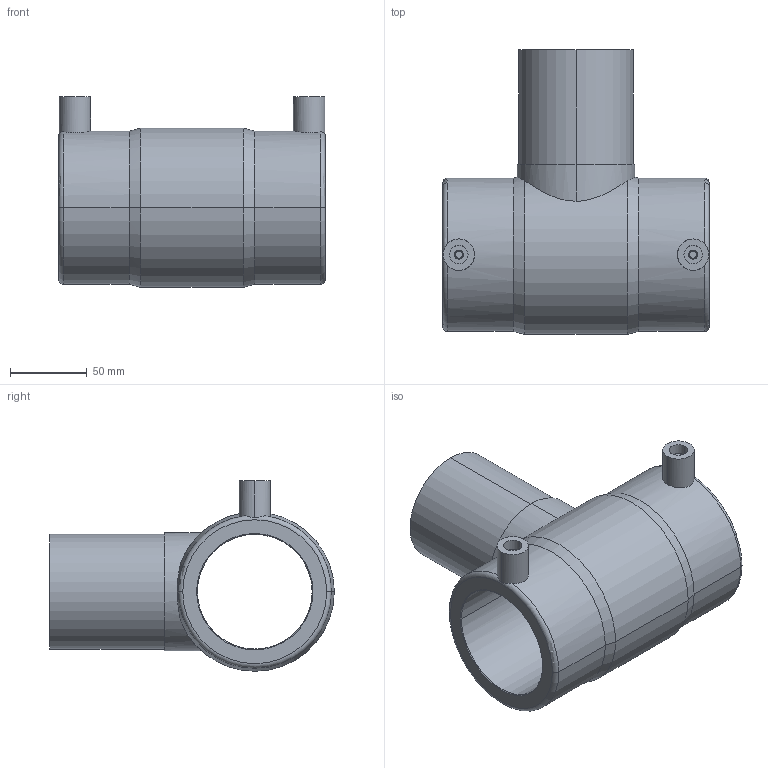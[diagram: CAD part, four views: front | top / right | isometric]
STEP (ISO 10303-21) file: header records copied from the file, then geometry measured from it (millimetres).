
FILE_DESCRIPTION (( 'STEP AP214' ), '1' );
FILE_NAME ('ETBKHA75.STEP', '2018-09-21T09:11:10', ( '' ), ( '' ), 'SwSTEP 2.0', 'SolidWorks 2017', '' );
FILE_SCHEMA (( 'AUTOMOTIVE_DESIGN' ));
Length unit declared in the file: millimetre
Products named in the file (1): ETBKHA75
Bounding box: 174 x 186 x 124.5 mm (x, y, z)
Volume: 725387.4 mm3; surface area: 142821 mm2
Topology: 1 solids, 1 shells, 54 faces, 126 edges, 78 vertices
Faces by surface type: cylinder 26, cone 12, plane 12, torus 4
Entity records: 2156 total; most frequent: CARTESIAN_POINT 755, DIRECTION 280, ORIENTED_EDGE 252, EDGE_CURVE 126, AXIS2_PLACEMENT_3D 121, VERTEX_POINT 78, CIRCLE 66, EDGE_LOOP 62
